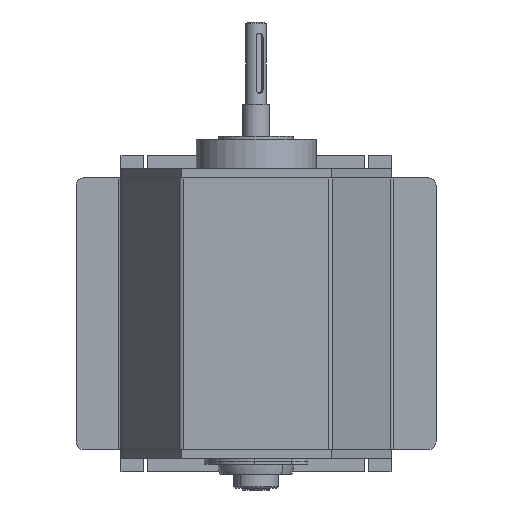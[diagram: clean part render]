
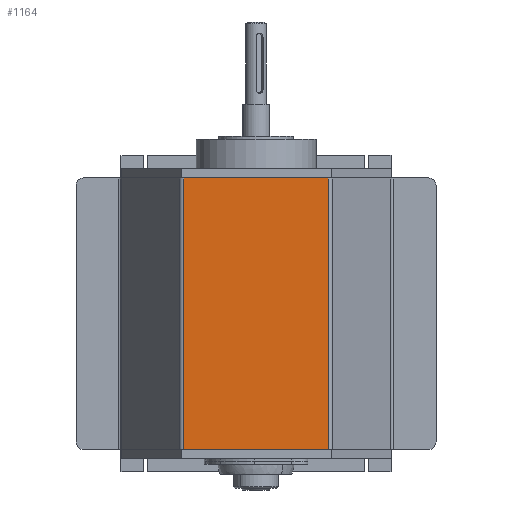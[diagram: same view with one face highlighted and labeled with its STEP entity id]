
A CAD part, front view. The second image highlights one B-rep face of the part: STEP entity #1164.
In plain terms, the highlighted planar face has unit normal (0, -1, 0).
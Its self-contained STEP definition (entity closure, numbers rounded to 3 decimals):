
#343 = CARTESIAN_POINT ( 'NONE',  ( -48.268, 0., -90.5 ) ) ;
#387 = EDGE_LOOP ( 'NONE', ( #11338, #4206, #18754, #8689 ) ) ;
#898 = FACE_OUTER_BOUND ( 'NONE', #387, .T. ) ;
#1016 = DIRECTION ( 'NONE',  ( 0., 0., -1. ) ) ;
#1164 = ADVANCED_FACE ( 'NONE', ( #898 ), #22662, .F. ) ;
#2508 = VERTEX_POINT ( 'NONE', #14058 ) ;
#2846 = DIRECTION ( 'NONE',  ( -1., 0., 0. ) ) ;
#3405 = VECTOR ( 'NONE', #1016, 1000. ) ;
#3701 = CARTESIAN_POINT ( 'NONE',  ( 48.268, 0., -90.5 ) ) ;
#3970 = LINE ( 'NONE', #4796, #10675 ) ;
#4206 = ORIENTED_EDGE ( 'NONE', *, *, #6533, .T. ) ;
#4744 = LINE ( 'NONE', #5999, #18171 ) ;
#4796 = CARTESIAN_POINT ( 'NONE',  ( -48.268, 0., 379.779 ) ) ;
#5999 = CARTESIAN_POINT ( 'NONE',  ( -50., 0., 90.5 ) ) ;
#6533 = EDGE_CURVE ( 'NONE', #19258, #12692, #3970, .T. ) ;
#7283 = CARTESIAN_POINT ( 'NONE',  ( -48.268, 0., 90.5 ) ) ;
#7776 = DIRECTION ( 'NONE',  ( -1., 0., 0. ) ) ;
#8272 = CARTESIAN_POINT ( 'NONE',  ( -50., 0., 379.779 ) ) ;
#8689 = ORIENTED_EDGE ( 'NONE', *, *, #11520, .F. ) ;
#9878 = CARTESIAN_POINT ( 'NONE',  ( 48.268, 0., 379.779 ) ) ;
#10675 = VECTOR ( 'NONE', #20504, 1000. ) ;
#11338 = ORIENTED_EDGE ( 'NONE', *, *, #12818, .T. ) ;
#11485 = LINE ( 'NONE', #9878, #3405 ) ;
#11520 = EDGE_CURVE ( 'NONE', #2508, #21249, #11485, .T. ) ;
#12271 = AXIS2_PLACEMENT_3D ( 'NONE', #8272, #20766, #2846 ) ;
#12692 = VERTEX_POINT ( 'NONE', #343 ) ;
#12818 = EDGE_CURVE ( 'NONE', #2508, #19258, #4744, .T. ) ;
#13164 = LINE ( 'NONE', #20730, #15983 ) ;
#14058 = CARTESIAN_POINT ( 'NONE',  ( 48.268, 0., 90.5 ) ) ;
#15983 = VECTOR ( 'NONE', #17239, 1000. ) ;
#17239 = DIRECTION ( 'NONE',  ( 1., 0., 0. ) ) ;
#18171 = VECTOR ( 'NONE', #7776, 1000. ) ;
#18754 = ORIENTED_EDGE ( 'NONE', *, *, #20925, .T. ) ;
#19258 = VERTEX_POINT ( 'NONE', #7283 ) ;
#20504 = DIRECTION ( 'NONE',  ( 0., 0., -1. ) ) ;
#20730 = CARTESIAN_POINT ( 'NONE',  ( -50., 0., -90.5 ) ) ;
#20766 = DIRECTION ( 'NONE',  ( 0., 1., 0. ) ) ;
#20925 = EDGE_CURVE ( 'NONE', #12692, #21249, #13164, .T. ) ;
#21249 = VERTEX_POINT ( 'NONE', #3701 ) ;
#22662 = PLANE ( 'NONE',  #12271 ) ;
